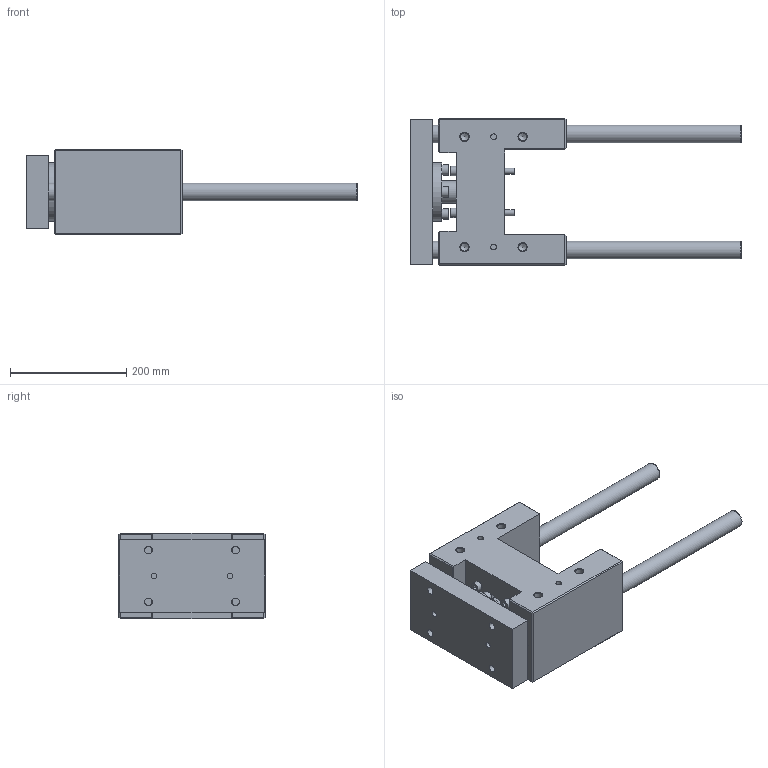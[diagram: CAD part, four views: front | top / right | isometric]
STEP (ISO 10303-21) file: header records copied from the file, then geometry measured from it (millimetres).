
FILE_DESCRIPTION( ( 'STEP AP214' ), '1' );
FILE_NAME( 'U:/Etudes/Top Solid/BIBLIO 3D AVM/TOP/PNEUMATIQUE/GUIDAGES/Type 32 (en H)/R_Renforcée/328R5230.step', '2005-05-27T09:15:10', ( ' ' ), ( ' ' ), 'XStep 1.0', ' ', ' ' );
FILE_SCHEMA( ( 'automotive_design' ) );
Length unit declared in the file: metre
Products named in the file (2): 1; 2
Bounding box: 570 x 252 x 148 mm (x, y, z)
Volume: 6744779.7 mm3; surface area: 562443.7 mm2
Topology: 2 solids, 7 shells, 239 faces, 527 edges, 341 vertices
Faces by surface type: plane 149, cylinder 69, cone 21
Full cylindrical faces by diameter (mm): 10 x12, 10.106 x4, 11 x4, 12 x8, 13 x8, 13.835 x8, 16 x4, 18 x4, 18.376 x2, 20 x4, 30 x4, 39 x1, 42 x1, 45 x1, 57 x1, 60 x1, 65 x1, 100 x1
Entity records: 7933 total; most frequent: CARTESIAN_POINT 1201, DIRECTION 1000, ORIENTED_EDGE 786, EDGE_CURVE 393, EDGE_LOOP 392, AXIS2_PLACEMENT_3D 374, FACE_OUTER_BOUND 308, VERTEX_POINT 303
